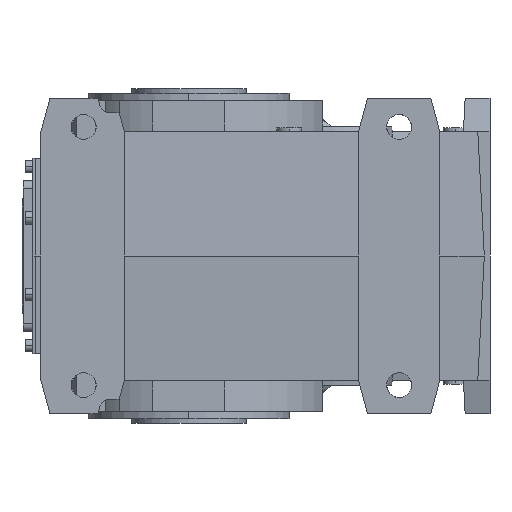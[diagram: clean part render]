
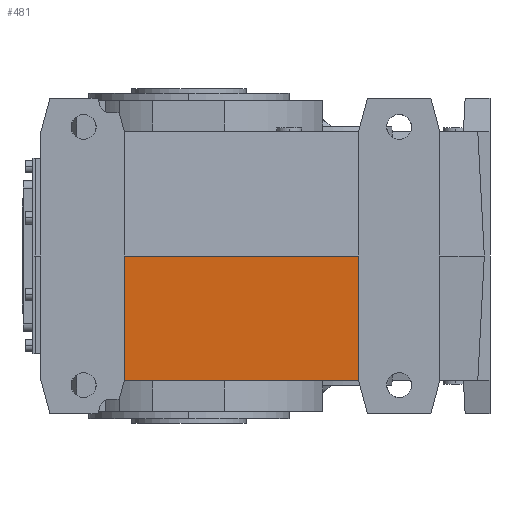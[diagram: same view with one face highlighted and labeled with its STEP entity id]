
A CAD part, left-side view. The second image highlights one B-rep face of the part: STEP entity #481.
In plain terms, the highlighted planar face has unit normal (-0.999, 0, -0.052).
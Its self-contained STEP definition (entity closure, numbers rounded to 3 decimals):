
#481 = ADVANCED_FACE( '', ( #1537 ), #1538, .F. );
#1537 = FACE_OUTER_BOUND( '', #3186, .T. );
#1538 = PLANE( '', #3187 );
#3186 = EDGE_LOOP( '', ( #6245, #6246, #6247, #6248 ) );
#3187 = AXIS2_PLACEMENT_3D( '', #6249, #6250, #6251 );
#6245 = ORIENTED_EDGE( '', *, *, #11247, .F. );
#6246 = ORIENTED_EDGE( '', *, *, #11244, .F. );
#6247 = ORIENTED_EDGE( '', *, *, #11248, .F. );
#6248 = ORIENTED_EDGE( '', *, *, #11249, .T. );
#6249 = CARTESIAN_POINT( '', ( -194., 67.5, 0. ) );
#6250 = DIRECTION( '', ( 0.999, 0., 0.052 ) );
#6251 = DIRECTION( '', ( -0.052, 0., 0.999 ) );
#11244 = EDGE_CURVE( '', #13722, #13724, #13725, .T. );
#11247 = EDGE_CURVE( '', #13724, #13729, #13730, .T. );
#11248 = EDGE_CURVE( '', #13731, #13722, #13732, .T. );
#11249 = EDGE_CURVE( '', #13731, #13729, #13733, .T. );
#13722 = VERTEX_POINT( '', #17542 );
#13724 = VERTEX_POINT( '', #17545 );
#13725 = LINE( '', #17546, #17547 );
#13729 = VERTEX_POINT( '', #17553 );
#13730 = LINE( '', #17554, #17555 );
#13731 = VERTEX_POINT( '', #17556 );
#13732 = LINE( '', #17557, #17558 );
#13733 = LINE( '', #17559, #17560 );
#17542 = CARTESIAN_POINT( '', ( -194., -177.5, 0. ) );
#17545 = CARTESIAN_POINT( '', ( -187.187, -177.5, -130. ) );
#17546 = CARTESIAN_POINT( '', ( -194., -177.5, 0. ) );
#17547 = VECTOR( '', #22252, 1. );
#17553 = CARTESIAN_POINT( '', ( -187.187, 67.5, -130. ) );
#17554 = CARTESIAN_POINT( '', ( -187.187, 16.25, -130. ) );
#17555 = VECTOR( '', #22255, 1. );
#17556 = CARTESIAN_POINT( '', ( -194., 67.5, 0. ) );
#17557 = CARTESIAN_POINT( '', ( -194., 67.5, 0. ) );
#17558 = VECTOR( '', #22256, 1. );
#17559 = CARTESIAN_POINT( '', ( -194., 67.5, 0. ) );
#17560 = VECTOR( '', #22257, 1. );
#22252 = DIRECTION( '', ( 0.052, 0., -0.999 ) );
#22255 = DIRECTION( '', ( 0., 1., 0. ) );
#22256 = DIRECTION( '', ( 0., -1., 0. ) );
#22257 = DIRECTION( '', ( 0.052, 0., -0.999 ) );
